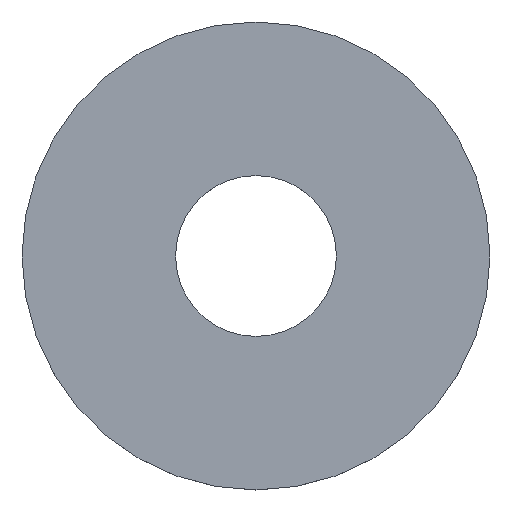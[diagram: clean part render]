
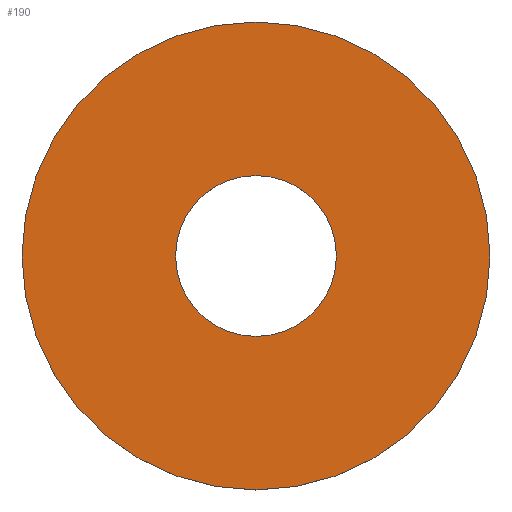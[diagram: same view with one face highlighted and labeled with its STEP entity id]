
A CAD part, top view. The second image highlights one B-rep face of the part: STEP entity #190.
In plain terms, the highlighted planar face has unit normal (0, 0, 1).
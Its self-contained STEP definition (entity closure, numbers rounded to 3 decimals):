
#24 = VERTEX_POINT('',#25);
#25 = CARTESIAN_POINT('',(2.4,0.,0.25));
#32 = CYLINDRICAL_SURFACE('',#33,2.4);
#33 = AXIS2_PLACEMENT_3D('',#34,#35,#36);
#34 = CARTESIAN_POINT('',(0.,0.,0.));
#35 = DIRECTION('',(-0.,-0.,-1.));
#36 = DIRECTION('',(1.,0.,0.));
#51 = EDGE_CURVE('',#24,#24,#52,.T.);
#52 = SURFACE_CURVE('',#53,(#58,#65),.PCURVE_S1.);
#53 = CIRCLE('',#54,2.4);
#54 = AXIS2_PLACEMENT_3D('',#55,#56,#57);
#55 = CARTESIAN_POINT('',(0.,0.,0.25));
#56 = DIRECTION('',(0.,0.,1.));
#57 = DIRECTION('',(1.,0.,0.));
#58 = PCURVE('',#32,#59);
#59 = DEFINITIONAL_REPRESENTATION('',(#60),#64);
#60 = LINE('',#61,#62);
#61 = CARTESIAN_POINT('',(-0.,-0.25));
#62 = VECTOR('',#63,1.);
#63 = DIRECTION('',(-1.,0.));
#64 = ( GEOMETRIC_REPRESENTATION_CONTEXT(2) 
PARAMETRIC_REPRESENTATION_CONTEXT() REPRESENTATION_CONTEXT('2D SPACE',''
  ) );
#65 = PCURVE('',#66,#71);
#66 = PLANE('',#67);
#67 = AXIS2_PLACEMENT_3D('',#68,#69,#70);
#68 = CARTESIAN_POINT('',(0.,0.,0.25));
#69 = DIRECTION('',(0.,0.,1.));
#70 = DIRECTION('',(1.,0.,-0.));
#71 = DEFINITIONAL_REPRESENTATION('',(#72),#76);
#72 = CIRCLE('',#73,2.4);
#73 = AXIS2_PLACEMENT_2D('',#74,#75);
#74 = CARTESIAN_POINT('',(0.,0.));
#75 = DIRECTION('',(1.,0.));
#76 = ( GEOMETRIC_REPRESENTATION_CONTEXT(2) 
PARAMETRIC_REPRESENTATION_CONTEXT() REPRESENTATION_CONTEXT('2D SPACE',''
  ) );
#112 = VERTEX_POINT('',#113);
#113 = CARTESIAN_POINT('',(0.825,0.,0.25));
#120 = CYLINDRICAL_SURFACE('',#121,0.825);
#121 = AXIS2_PLACEMENT_3D('',#122,#123,#124);
#122 = CARTESIAN_POINT('',(0.,0.,0.));
#123 = DIRECTION('',(-0.,-0.,-1.));
#124 = DIRECTION('',(1.,0.,0.));
#139 = EDGE_CURVE('',#112,#112,#140,.T.);
#140 = SURFACE_CURVE('',#141,(#146,#153),.PCURVE_S1.);
#141 = CIRCLE('',#142,0.825);
#142 = AXIS2_PLACEMENT_3D('',#143,#144,#145);
#143 = CARTESIAN_POINT('',(0.,0.,0.25)
  );
#144 = DIRECTION('',(0.,0.,1.));
#145 = DIRECTION('',(1.,0.,0.));
#146 = PCURVE('',#120,#147);
#147 = DEFINITIONAL_REPRESENTATION('',(#148),#152);
#148 = LINE('',#149,#150);
#149 = CARTESIAN_POINT('',(-0.,-0.25));
#150 = VECTOR('',#151,1.);
#151 = DIRECTION('',(-1.,0.));
#152 = ( GEOMETRIC_REPRESENTATION_CONTEXT(2) 
PARAMETRIC_REPRESENTATION_CONTEXT() REPRESENTATION_CONTEXT('2D SPACE',''
  ) );
#153 = PCURVE('',#66,#154);
#154 = DEFINITIONAL_REPRESENTATION('',(#155),#159);
#155 = CIRCLE('',#156,0.825);
#156 = AXIS2_PLACEMENT_2D('',#157,#158);
#157 = CARTESIAN_POINT('',(0.,0.));
#158 = DIRECTION('',(1.,0.));
#159 = ( GEOMETRIC_REPRESENTATION_CONTEXT(2) 
PARAMETRIC_REPRESENTATION_CONTEXT() REPRESENTATION_CONTEXT('2D SPACE',''
  ) );
#190 = ADVANCED_FACE('',(#191,#194),#66,.T.);
#191 = FACE_BOUND('',#192,.T.);
#192 = EDGE_LOOP('',(#193));
#193 = ORIENTED_EDGE('',*,*,#51,.T.);
#194 = FACE_BOUND('',#195,.T.);
#195 = EDGE_LOOP('',(#196));
#196 = ORIENTED_EDGE('',*,*,#139,.F.);
